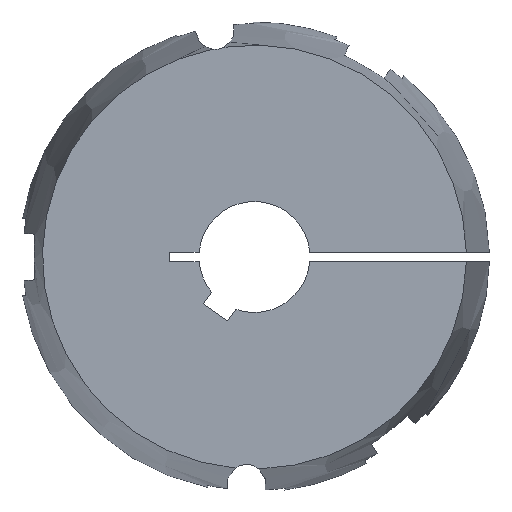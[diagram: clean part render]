
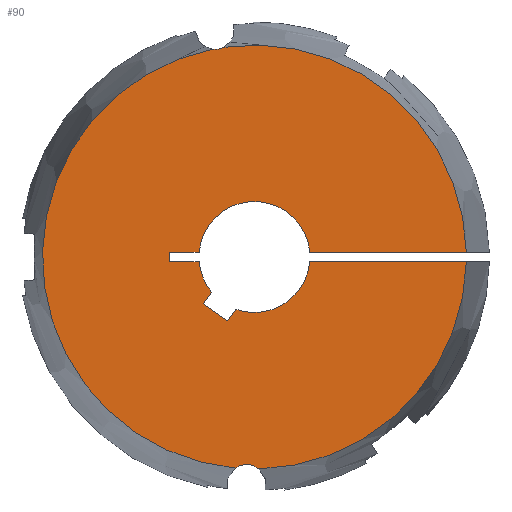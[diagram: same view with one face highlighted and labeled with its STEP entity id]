
A CAD part, left-side view. The second image highlights one B-rep face of the part: STEP entity #90.
In plain terms, the highlighted planar face has unit normal (-1, 0, 0).
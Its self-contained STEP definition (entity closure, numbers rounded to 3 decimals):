
#90 = ADVANCED_FACE( '', ( #140 ), #141, .F. );
#140 = FACE_OUTER_BOUND( '', #208, .T. );
#141 = PLANE( '', #209 );
#208 = EDGE_LOOP( '', ( #369, #370, #371, #372, #373, #374, #375, #376, #377, #378, #379, #380, #381, #382, #383, #384 ) );
#209 = AXIS2_PLACEMENT_3D( '', #385, #386, #387 );
#369 = ORIENTED_EDGE( '', *, *, #548, .F. );
#370 = ORIENTED_EDGE( '', *, *, #601, .F. );
#371 = ORIENTED_EDGE( '', *, *, #570, .T. );
#372 = ORIENTED_EDGE( '', *, *, #583, .T. );
#373 = ORIENTED_EDGE( '', *, *, #581, .T. );
#374 = ORIENTED_EDGE( '', *, *, #578, .T. );
#375 = ORIENTED_EDGE( '', *, *, #587, .T. );
#376 = ORIENTED_EDGE( '', *, *, #602, .T. );
#377 = ORIENTED_EDGE( '', *, *, #603, .T. );
#378 = ORIENTED_EDGE( '', *, *, #604, .T. );
#379 = ORIENTED_EDGE( '', *, *, #605, .T. );
#380 = ORIENTED_EDGE( '', *, *, #606, .T. );
#381 = ORIENTED_EDGE( '', *, *, #572, .T. );
#382 = ORIENTED_EDGE( '', *, *, #607, .F. );
#383 = ORIENTED_EDGE( '', *, *, #551, .F. );
#384 = ORIENTED_EDGE( '', *, *, #608, .F. );
#385 = CARTESIAN_POINT( '', ( -89., 0., 0. ) );
#386 = DIRECTION( '', ( 1., 0., 0. ) );
#387 = DIRECTION( '', ( 0., 1., 0. ) );
#548 = EDGE_CURVE( '', #649, #651, #652, .F. );
#551 = EDGE_CURVE( '', #655, #657, #658, .F. );
#570 = EDGE_CURVE( '', #693, #691, #694, .T. );
#572 = EDGE_CURVE( '', #696, #697, #698, .T. );
#578 = EDGE_CURVE( '', #709, #707, #710, .T. );
#581 = EDGE_CURVE( '', #714, #709, #715, .T. );
#583 = EDGE_CURVE( '', #691, #714, #717, .T. );
#587 = EDGE_CURVE( '', #707, #721, #723, .T. );
#601 = EDGE_CURVE( '', #693, #649, #745, .T. );
#602 = EDGE_CURVE( '', #721, #746, #747, .T. );
#603 = EDGE_CURVE( '', #746, #748, #749, .T. );
#604 = EDGE_CURVE( '', #748, #750, #751, .T. );
#605 = EDGE_CURVE( '', #750, #752, #753, .T. );
#606 = EDGE_CURVE( '', #752, #696, #754, .T. );
#607 = EDGE_CURVE( '', #657, #697, #755, .T. );
#608 = EDGE_CURVE( '', #651, #655, #756, .T. );
#649 = VERTEX_POINT( '', #815 );
#651 = VERTEX_POINT( '', #828 );
#652 = CIRCLE( '', #829, 5.25 );
#655 = VERTEX_POINT( '', #843 );
#657 = VERTEX_POINT( '', #861 );
#658 = CIRCLE( '', #862, 5.25 );
#691 = VERTEX_POINT( '', #935 );
#693 = VERTEX_POINT( '', #938 );
#694 = LINE( '', #939, #940 );
#696 = VERTEX_POINT( '', #948 );
#697 = VERTEX_POINT( '', #949 );
#698 = LINE( '', #950, #951 );
#707 = VERTEX_POINT( '', #969 );
#709 = VERTEX_POINT( '', #972 );
#710 = LINE( '', #973, #974 );
#714 = VERTEX_POINT( '', #980 );
#715 = LINE( '', #981, #982 );
#717 = CIRCLE( '', #985, 15. );
#721 = VERTEX_POINT( '', #990 );
#723 = LINE( '', #993, #994 );
#745 = CIRCLE( '', #1019, 57.277 );
#746 = VERTEX_POINT( '', #1020 );
#747 = CIRCLE( '', #1021, 15. );
#748 = VERTEX_POINT( '', #1022 );
#749 = LINE( '', #1023, #1024 );
#750 = VERTEX_POINT( '', #1025 );
#751 = LINE( '', #1026, #1027 );
#752 = VERTEX_POINT( '', #1028 );
#753 = LINE( '', #1029, #1030 );
#754 = CIRCLE( '', #1031, 15. );
#755 = CIRCLE( '', #1032, 57.277 );
#756 = CIRCLE( '', #1033, 57.277 );
#815 = CARTESIAN_POINT( '', ( -89., -1.169, -57.265 ) );
#828 = CARTESIAN_POINT( '', ( -89., 5.158, -57.044 ) );
#829 = AXIS2_PLACEMENT_3D( '', #1193, #1194, #1195 );
#843 = CARTESIAN_POINT( '', ( -89., 11.362, 56.138 ) );
#861 = CARTESIAN_POINT( '', ( -89., 8.229, 56.682 ) );
#862 = AXIS2_PLACEMENT_3D( '', #1196, #1197, #1198 );
#935 = CARTESIAN_POINT( '', ( -89., -14.948, -1.25 ) );
#938 = CARTESIAN_POINT( '', ( -89., -57.263, -1.25 ) );
#939 = CARTESIAN_POINT( '', ( -89., -63.5, -1.25 ) );
#940 = VECTOR( '', #1228, 1000. );
#948 = CARTESIAN_POINT( '', ( -89., -14.948, 1.25 ) );
#949 = CARTESIAN_POINT( '', ( -89., -57.263, 1.25 ) );
#950 = CARTESIAN_POINT( '', ( -89., 0., 1.25 ) );
#951 = VECTOR( '', #1229, 1000. );
#969 = CARTESIAN_POINT( '', ( -89., 13.773, -12.696 ) );
#972 = CARTESIAN_POINT( '', ( -89., 7.22, -17.285 ) );
#973 = CARTESIAN_POINT( '', ( -89., 7.22, -17.285 ) );
#974 = VECTOR( '', #1234, 1000. );
#980 = CARTESIAN_POINT( '', ( -89., 5.015, -14.137 ) );
#981 = CARTESIAN_POINT( '', ( -89., 5.015, -14.137 ) );
#982 = VECTOR( '', #1237, 1000. );
#985 = AXIS2_PLACEMENT_3D( '', #1239, #1240, #1241 );
#990 = CARTESIAN_POINT( '', ( -89., 11.569, -9.548 ) );
#993 = CARTESIAN_POINT( '', ( -89., 13.773, -12.696 ) );
#994 = VECTOR( '', #1247, 1000. );
#1019 = AXIS2_PLACEMENT_3D( '', #1281, #1282, #1283 );
#1020 = CARTESIAN_POINT( '', ( -89., 14.948, -1.25 ) );
#1021 = AXIS2_PLACEMENT_3D( '', #1284, #1285, #1286 );
#1022 = CARTESIAN_POINT( '', ( -89., 23., -1.25 ) );
#1023 = CARTESIAN_POINT( '', ( -89., 0., -1.25 ) );
#1024 = VECTOR( '', #1287, 1000. );
#1025 = CARTESIAN_POINT( '', ( -89., 23., 1.25 ) );
#1026 = CARTESIAN_POINT( '', ( -89., 23., -1.25 ) );
#1027 = VECTOR( '', #1288, 1000. );
#1028 = CARTESIAN_POINT( '', ( -89., 14.948, 1.25 ) );
#1029 = CARTESIAN_POINT( '', ( -89., 23., 1.25 ) );
#1030 = VECTOR( '', #1289, 1000. );
#1031 = AXIS2_PLACEMENT_3D( '', #1290, #1291, #1292 );
#1032 = AXIS2_PLACEMENT_3D( '', #1293, #1294, #1295 );
#1033 = AXIS2_PLACEMENT_3D( '', #1296, #1297, #1298 );
#1193 = CARTESIAN_POINT( '', ( -89., 2.141, -61.34 ) );
#1194 = DIRECTION( '', ( 1., 0., 0. ) );
#1195 = DIRECTION( '', ( 0., 1., 0. ) );
#1196 = CARTESIAN_POINT( '', ( -89., 10.652, 61.34 ) );
#1197 = DIRECTION( '', ( 1., 0., 0. ) );
#1198 = DIRECTION( '', ( 0., 1., 0. ) );
#1228 = DIRECTION( '', ( 0., 1., 0. ) );
#1229 = DIRECTION( '', ( 0., -1., 0. ) );
#1234 = DIRECTION( '', ( 0., 0.819, 0.574 ) );
#1237 = DIRECTION( '', ( 0., 0.574, -0.819 ) );
#1239 = CARTESIAN_POINT( '', ( -89., 0., 0. ) );
#1240 = DIRECTION( '', ( 1., 0., 0. ) );
#1241 = DIRECTION( '', ( 0., 0., -1. ) );
#1247 = DIRECTION( '', ( 0., -0.574, 0.819 ) );
#1281 = CARTESIAN_POINT( '', ( -89., 0., 0. ) );
#1282 = DIRECTION( '', ( 1., 0., 0. ) );
#1283 = DIRECTION( '', ( 0., 1., 0. ) );
#1284 = CARTESIAN_POINT( '', ( -89., 0., 0. ) );
#1285 = DIRECTION( '', ( 1., 0., 0. ) );
#1286 = DIRECTION( '', ( 0., 0., -1. ) );
#1287 = DIRECTION( '', ( 0., 1., 0. ) );
#1288 = DIRECTION( '', ( 0., 0., 1. ) );
#1289 = DIRECTION( '', ( 0., -1., 0. ) );
#1290 = CARTESIAN_POINT( '', ( -89., 0., 0. ) );
#1291 = DIRECTION( '', ( 1., 0., 0. ) );
#1292 = DIRECTION( '', ( 0., 0., -1. ) );
#1293 = CARTESIAN_POINT( '', ( -89., 0., 0. ) );
#1294 = DIRECTION( '', ( 1., 0., 0. ) );
#1295 = DIRECTION( '', ( 0., 1., 0. ) );
#1296 = CARTESIAN_POINT( '', ( -89., 0., 0. ) );
#1297 = DIRECTION( '', ( 1., 0., 0. ) );
#1298 = DIRECTION( '', ( 0., 1., 0. ) );
